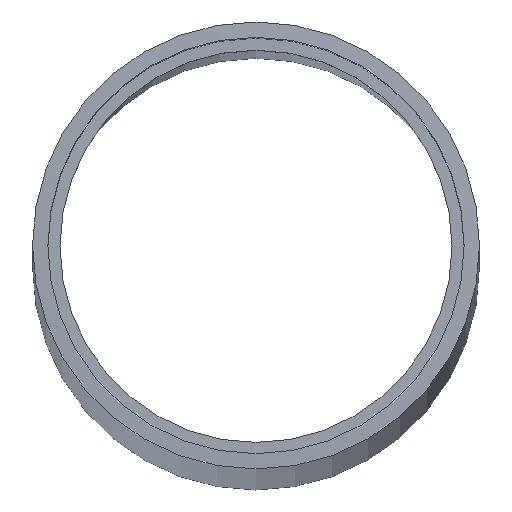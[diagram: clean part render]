
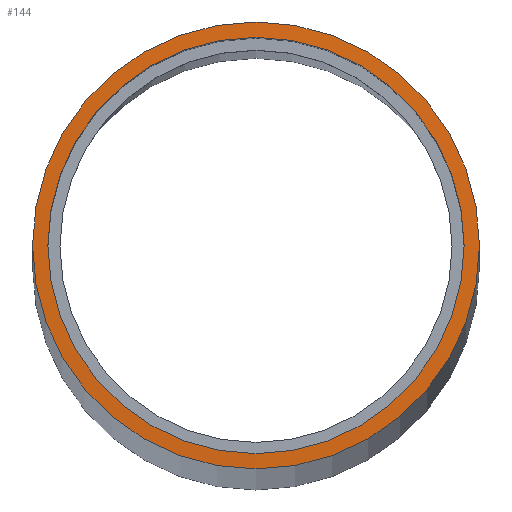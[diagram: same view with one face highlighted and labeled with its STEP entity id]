
A CAD part, top view. The second image highlights one B-rep face of the part: STEP entity #144.
In plain terms, the highlighted spherical face has radius 1000 mm.
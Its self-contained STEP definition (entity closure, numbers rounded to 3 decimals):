
#31 = CYLINDRICAL_SURFACE('',#32,44.45);
#32 = AXIS2_PLACEMENT_3D('',#33,#34,#35);
#33 = CARTESIAN_POINT('',(0.,0.,-398.987));
#34 = DIRECTION('',(-0.,-0.,-1.));
#35 = DIRECTION('',(1.,0.,0.));
#56 = VERTEX_POINT('',#57);
#57 = CARTESIAN_POINT('',(44.45,0.,
    1999.012));
#78 = EDGE_CURVE('',#56,#56,#79,.T.);
#79 = SURFACE_CURVE('',#80,(#85,#92),.PCURVE_S1.);
#80 = CIRCLE('',#81,44.45);
#81 = AXIS2_PLACEMENT_3D('',#82,#83,#84);
#82 = CARTESIAN_POINT('',(0.,0.,1999.012));
#83 = DIRECTION('',(0.,-0.,-1.));
#84 = DIRECTION('',(0.,1.,-0.));
#85 = PCURVE('',#31,#86);
#86 = DEFINITIONAL_REPRESENTATION('',(#87),#91);
#87 = LINE('',#88,#89);
#88 = CARTESIAN_POINT('',(-7.854,-2397.999));
#89 = VECTOR('',#90,1.);
#90 = DIRECTION('',(1.,-0.));
#91 = ( GEOMETRIC_REPRESENTATION_CONTEXT(2) 
PARAMETRIC_REPRESENTATION_CONTEXT() REPRESENTATION_CONTEXT('2D SPACE',''
  ) );
#92 = PCURVE('',#93,#98);
#93 = SPHERICAL_SURFACE('',#94,1000.);
#94 = AXIS2_PLACEMENT_3D('',#95,#96,#97);
#95 = CARTESIAN_POINT('',(0.,0.,1000.));
#96 = DIRECTION('',(0.,0.,1.));
#97 = DIRECTION('',(1.,0.,0.));
#98 = DEFINITIONAL_REPRESENTATION('',(#99),#103);
#99 = LINE('',#100,#101);
#100 = CARTESIAN_POINT('',(7.854,1.526));
#101 = VECTOR('',#102,1.);
#102 = DIRECTION('',(-1.,0.));
#103 = ( GEOMETRIC_REPRESENTATION_CONTEXT(2) 
PARAMETRIC_REPRESENTATION_CONTEXT() REPRESENTATION_CONTEXT('2D SPACE',''
  ) );
#144 = ADVANCED_FACE('',(#145),#93,.T.);
#145 = FACE_BOUND('',#146,.T.);
#146 = EDGE_LOOP('',(#147,#171,#172,#173));
#147 = ORIENTED_EDGE('',*,*,#148,.F.);
#148 = EDGE_CURVE('',#56,#149,#151,.T.);
#149 = VERTEX_POINT('',#150);
#150 = CARTESIAN_POINT('',(41.4,0.,
    1999.143));
#151 = SEAM_CURVE('',#152,(#157,#164),.PCURVE_S1.);
#152 = CIRCLE('',#153,1000.);
#153 = AXIS2_PLACEMENT_3D('',#154,#155,#156);
#154 = CARTESIAN_POINT('',(0.,0.,1000.));
#155 = DIRECTION('',(0.,-1.,0.));
#156 = DIRECTION('',(1.,0.,0.));
#157 = PCURVE('',#93,#158);
#158 = DEFINITIONAL_REPRESENTATION('',(#159),#163);
#159 = LINE('',#160,#161);
#160 = CARTESIAN_POINT('',(0.,-6.283));
#161 = VECTOR('',#162,1.);
#162 = DIRECTION('',(0.,1.));
#163 = ( GEOMETRIC_REPRESENTATION_CONTEXT(2) 
PARAMETRIC_REPRESENTATION_CONTEXT() REPRESENTATION_CONTEXT('2D SPACE',''
  ) );
#164 = PCURVE('',#93,#165);
#165 = DEFINITIONAL_REPRESENTATION('',(#166),#170);
#166 = LINE('',#167,#168);
#167 = CARTESIAN_POINT('',(6.283,-6.283));
#168 = VECTOR('',#169,1.);
#169 = DIRECTION('',(0.,1.));
#170 = ( GEOMETRIC_REPRESENTATION_CONTEXT(2) 
PARAMETRIC_REPRESENTATION_CONTEXT() REPRESENTATION_CONTEXT('2D SPACE',''
  ) );
#171 = ORIENTED_EDGE('',*,*,#78,.F.);
#172 = ORIENTED_EDGE('',*,*,#148,.T.);
#173 = ORIENTED_EDGE('',*,*,#174,.T.);
#174 = EDGE_CURVE('',#149,#149,#175,.T.);
#175 = SURFACE_CURVE('',#176,(#181,#188),.PCURVE_S1.);
#176 = CIRCLE('',#177,41.4);
#177 = AXIS2_PLACEMENT_3D('',#178,#179,#180);
#178 = CARTESIAN_POINT('',(0.,0.,1999.143));
#179 = DIRECTION('',(0.,-0.,-1.));
#180 = DIRECTION('',(0.,1.,-0.));
#181 = PCURVE('',#93,#182);
#182 = DEFINITIONAL_REPRESENTATION('',(#183),#187);
#183 = LINE('',#184,#185);
#184 = CARTESIAN_POINT('',(7.854,1.529));
#185 = VECTOR('',#186,1.);
#186 = DIRECTION('',(-1.,0.));
#187 = ( GEOMETRIC_REPRESENTATION_CONTEXT(2) 
PARAMETRIC_REPRESENTATION_CONTEXT() REPRESENTATION_CONTEXT('2D SPACE',''
  ) );
#188 = PCURVE('',#189,#194);
#189 = CYLINDRICAL_SURFACE('',#190,41.4);
#190 = AXIS2_PLACEMENT_3D('',#191,#192,#193);
#191 = CARTESIAN_POINT('',(0.,0.,1900.));
#192 = DIRECTION('',(-0.,-0.,-1.));
#193 = DIRECTION('',(1.,0.,0.));
#194 = DEFINITIONAL_REPRESENTATION('',(#195),#199);
#195 = LINE('',#196,#197);
#196 = CARTESIAN_POINT('',(-7.854,-99.143));
#197 = VECTOR('',#198,1.);
#198 = DIRECTION('',(1.,-0.));
#199 = ( GEOMETRIC_REPRESENTATION_CONTEXT(2) 
PARAMETRIC_REPRESENTATION_CONTEXT() REPRESENTATION_CONTEXT('2D SPACE',''
  ) );
